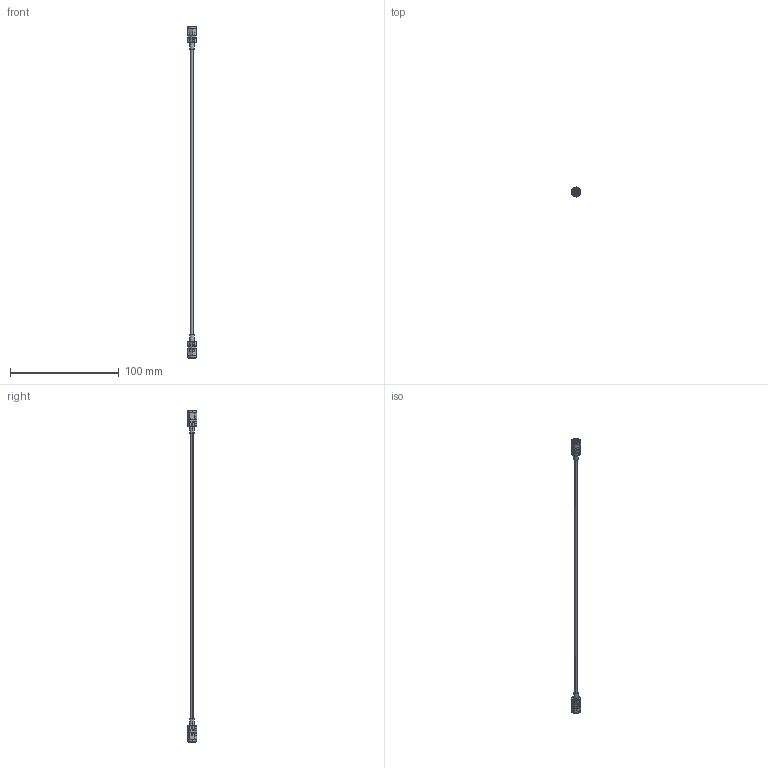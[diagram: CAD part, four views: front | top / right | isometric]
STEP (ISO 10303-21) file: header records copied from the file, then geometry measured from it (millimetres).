
FILE_DESCRIPTION (( 'STEP AP203' ), '1' );
FILE_NAME ('7015-0615.STEP', '2017-05-04T20:02:10', ( '' ), ( '' ), 'SwSTEP 2.0', 'SolidWorks 2016', '' );
FILE_SCHEMA (( 'CONFIG_CONTROL_DESIGN' ));
Length unit declared in the file: inch
Products named in the file (20): M23053_5-10X-0 FOR 7015-0615-0617; 040-29-001; 015-29-000; 012-15-071; 244-15-029; 052-15-003; SF1511-60030; 029-15-000; 033-15-101; 7015-0615; 041-15-028; 033-15-078; 200-70-139 FOR 7015-0615-0617
Assembly tree (14 placements, depth 3):
  040-29-001
  244-15-029
  052-15-003
  7015-0615
    200-70-139 FOR 7015-0615-0617
    M23053_5-10X-0 FOR 7015-0615-0617
    M23053_5-10X-0 FOR 7015-0615-0617
    SF1511-60030
      012-15-071
      033-15-101
      052-15-003
      029-15-000
      015-29-000
    SF1511-60030
      012-15-071
      033-15-101
      029-15-000
      015-29-000
  041-15-028
Bounding box: 7.92 x 9.15 x 304.8 mm (x, y, z)
Volume: 1318.1 mm3; surface area: 6404.2 mm2
Topology: 14 solids, 14 shells, 289 faces, 688 edges, 434 vertices
Faces by surface type: cylinder 126, plane 91, cone 64, sphere 4, torus 4
Entity records: 10679 total; most frequent: CARTESIAN_POINT 1810, DIRECTION 1520, ORIENTED_EDGE 1360, EDGE_CURVE 680, AXIS2_PLACEMENT_3D 620, VERTEX_POINT 430, EDGE_LOOP 360, CIRCLE 312
